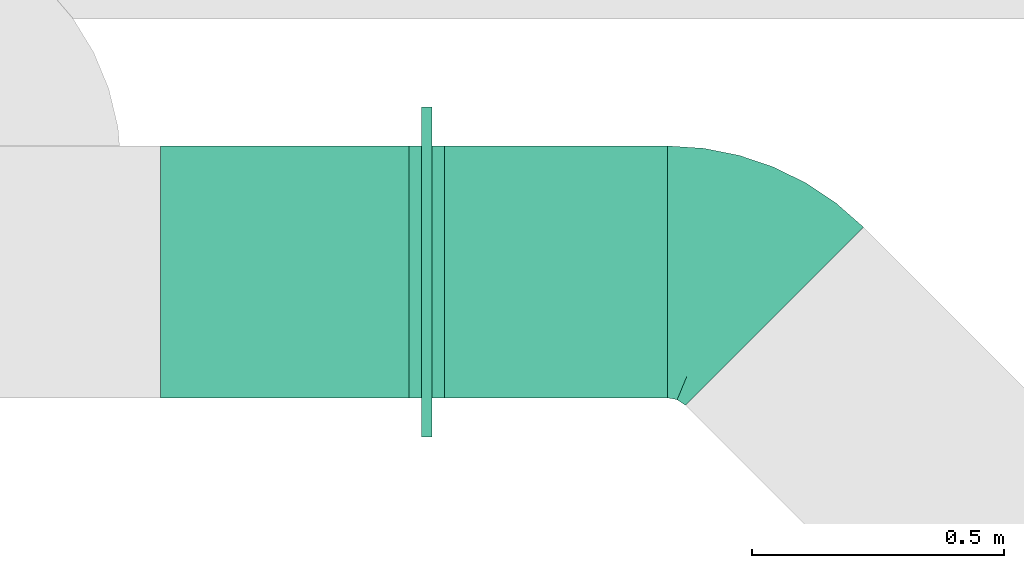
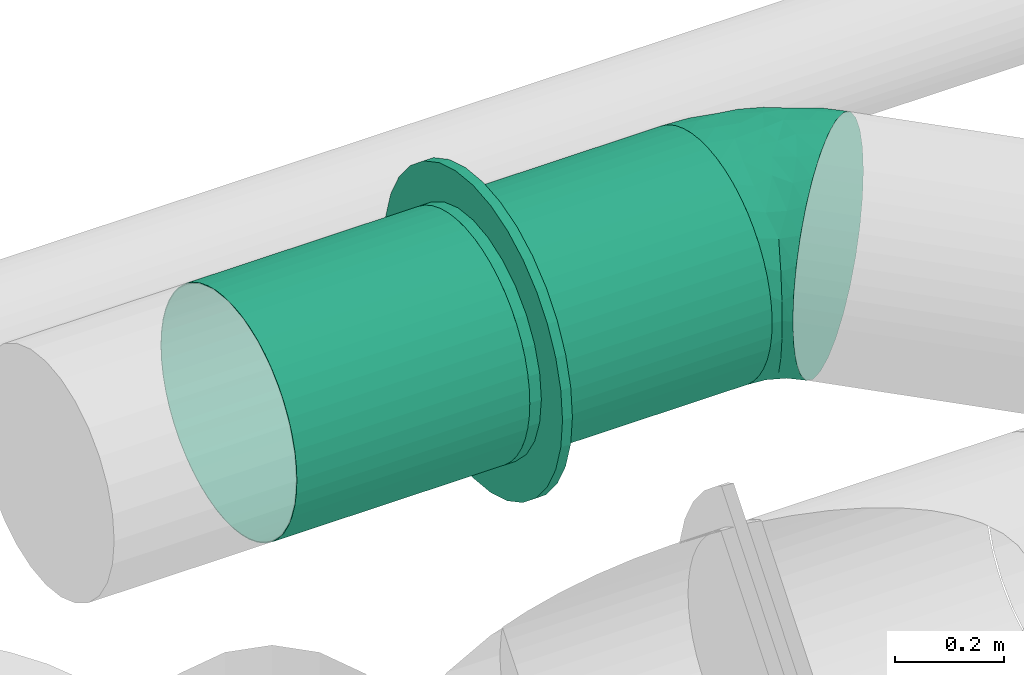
# One storey, part 14 of 31: 2 flow segments, 1 flow controller, 1 flow fitting.
"""IFC2X3 building model written with IfcOpenShell, lengths in millimetres."""

from ifc_helpers import new_model, entity, si_unit, converted_unit, derived_unit, direction, frame, origin_with_axes, origin_2d_with_axis, place, context, subcontext, project, spatial, hollow_circle, extrude, open_shell, surface_model, source, transform, mapped, type_object, element, save


model = new_model("IFC2X3")

# Units and contexts
model_context = context("Model", 3, precision=0.01, world=frame((0.0, 4.29681676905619e-09, 0.0)), true_north=direction((4.01073788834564e-13, 1.0)))
plan_context = context("Plan", 3, precision=0.01, world=frame((0.0, 4.29681676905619e-09, 0.0)), true_north=direction((4.01073788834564e-13, 1.0)))
body_context = subcontext(model_context, "Body", "Model", "MODEL_VIEW")
ifc_project = project(units=[converted_unit("PLANEANGLEUNIT", "DEGREE", entity("IfcPositiveLengthMeasure", 0.0174532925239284), si_unit("PLANEANGLEUNIT", "RADIAN"), dimensions=[0, 0, 0, 0, 0, 0, 0]), si_unit("AREAUNIT", "SQUARE_METRE"), si_unit("LENGTHUNIT", "METRE", prefix="MILLI"), si_unit("MASSUNIT", "GRAM", prefix="KILO"), si_unit("POWERUNIT", "WATT"), si_unit("PRESSUREUNIT", "PASCAL", prefix="KILO"), si_unit("FORCEUNIT", "NEWTON", prefix="KILO"), si_unit("ELECTRICVOLTAGEUNIT", "VOLT"), si_unit("ELECTRICCURRENTUNIT", "AMPERE"), si_unit("THERMODYNAMICTEMPERATUREUNIT", "DEGREE_CELSIUS"), si_unit("TIMEUNIT", "SECOND"), si_unit("VOLUMEUNIT", "CUBIC_METRE"), derived_unit("LINEARVELOCITYUNIT", [(si_unit("LENGTHUNIT", "METRE"), 1), (si_unit("TIMEUNIT", "SECOND"), -1)]), derived_unit("VOLUMETRICFLOWRATEUNIT", [(si_unit("VOLUMEUNIT", "CUBIC_METRE"), 1), (si_unit("TIMEUNIT", "SECOND"), -1)]), derived_unit("THERMALTRANSMITTANCEUNIT", [(si_unit("POWERUNIT", "WATT"), 1), (si_unit("THERMODYNAMICTEMPERATUREUNIT", "KELVIN"), -1), (si_unit("AREAUNIT", "SQUARE_METRE"), -1)]), derived_unit("SOUNDPRESSUREUNIT", [(si_unit("PRESSUREUNIT", "PASCAL"), 1)])], contexts=[model_context, plan_context])

# Site, building, storey
site_placement = place(None, frame((0.0, -4.29681676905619e-09, 0.0), z_axis=(0.0, 0.0, 1.0), x_axis=(1.0, 0.0, 0.0)))
site = spatial("IfcSite", under=ifc_project, at=site_placement, CompositionType="ELEMENT")
building_placement = place(site_placement, frame((0.0, 4.29681676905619e-09, 0.0), z_axis=(0.0, 0.0, 1.0), x_axis=(1.0, 0.0, 0.0)))
building = spatial("IfcBuilding", under=site, at=building_placement, Name="mc-building", CompositionType="ELEMENT")
storey_placement = place(building_placement, frame((0.0, 0.0, 210900.0), z_axis=(0.0, 0.0, 1.0), x_axis=(1.0, 0.0, 0.0)))
storey = spatial("IfcBuildingStorey", under=building, at=storey_placement, Name="Nivå F", CompositionType="ELEMENT", Elevation=210900.0)

# Flow controller
damper_type = type_object("IfcDamperType", Name="IRIS-050", PredefinedType="BALANCINGDAMPER")
shared_shape_1 = source(origin_with_axes(), body_context, "Body", "SurfaceModel", [
    surface_model("IfcShellBasedSurfaceModel", [(35.0, 225.24221, -108.47093), (35.0, 55.63023, -243.73198), (35.0, 108.47093, -225.24221), (35.0, 155.87244, -195.45787), (35.0, 243.73198, -55.63023), (35.0, 250.0, 0.0), (35.0, -225.24221, -108.47093), (35.0, 195.45787, -155.87244), (35.0, -55.63023, -243.73198), (35.0, -155.87244, -195.45787), (35.0, -108.47093, -225.24221), (35.0, 0.0, -250.0), (35.0, -195.45787, -155.87244), (35.0, -243.73198, -55.63023), (35.0, 243.73198, 55.63023), (35.0, 225.24221, 108.47093), (35.0, 195.45787, 155.87244), (35.0, 155.87244, 195.45787), (35.0, 108.47093, 225.24221), (35.0, -195.45787, 155.87244), (35.0, 55.63023, 243.73198), (35.0, 0.0, 250.0), (35.0, -55.63023, 243.73198), (35.0, -250.0, 0.0), (35.0, -225.24221, 108.47093), (35.0, -243.73198, 55.63023), (35.0, -108.47093, 225.24221), (35.0, -155.87244, 195.45787), (10.5, 0.0, 250.0), (10.5, 55.63023, 243.73198), (10.5, 108.47093, 225.24221), (10.5, -108.47093, 225.24221), (10.5, 225.24221, 108.47093), (10.5, 243.73198, 55.63023), (10.5, 195.45787, 155.87244), (10.5, 155.87244, 195.45787), (10.5, -225.24221, 108.47093), (10.5, -250.0, 0.0), (10.5, -195.45787, 155.87244), (10.5, -155.87244, 195.45787), (10.5, -55.63023, 243.73198), (10.5, -243.73198, 55.63023), (10.5, 250.0, 0.0), (10.5, 243.73198, -55.63023), (10.5, 225.24221, -108.47093), (10.5, -225.24221, -108.47093), (10.5, 155.87244, -195.45787), (10.5, 108.47093, -225.24221), (10.5, 55.63023, -243.73198), (10.5, 195.45787, -155.87244), (10.5, 0.0, -250.0), (10.5, -155.87244, -195.45787), (10.5, -195.45787, -155.87244), (10.5, -243.73198, -55.63023), (10.5, -55.63023, -243.73198), (10.5, -108.47093, -225.24221), (10.5, 63.89208, -321.20717), (10.5, 181.94925, -272.30629), (10.5, 272.30629, -181.94925), (10.5, 125.32882, -302.57054), (10.5, 231.57747, -231.57747), (10.5, 302.57054, -125.32882), (10.5, 321.20717, -63.89208), (10.5, 231.57747, 231.57747), (10.5, -181.94925, -272.30629), (10.5, 0.0, -327.5), (10.5, -63.89208, -321.20717), (10.5, -125.32882, -302.57054), (10.5, -272.30629, -181.94925), (10.5, -231.57747, -231.57747), (10.5, -302.57054, -125.32882), (10.5, -321.20717, 63.89208), (10.5, -327.5, 0.0), (10.5, -321.20717, -63.89208), (10.5, 327.5, 0.0), (10.5, 302.57054, 125.32882), (10.5, 272.30629, 181.94925), (10.5, 125.32882, 302.57054), (10.5, 63.89208, 321.20717), (10.5, 181.94925, 272.30629), (10.5, 0.0, 327.5), (10.5, -272.30629, 181.94925), (10.5, -302.57054, 125.32882), (10.5, -125.32882, 302.57054), (10.5, -231.57747, 231.57747), (10.5, -181.94925, 272.30629), (10.5, -63.89208, 321.20717), (10.5, 321.20717, 63.89208), (-10.5, 63.89208, 321.20717), (-10.5, 125.32882, 302.57054), (-10.5, 321.20717, 63.89208), (-10.5, -63.89208, 321.20717), (-10.5, 0.0, 327.5), (-10.5, 231.57747, 231.57747), (-10.5, 181.94925, 272.30629), (-10.5, 302.57054, 125.32882), (-10.5, 272.30629, 181.94925), (-10.5, -321.20717, 63.89208), (-10.5, -231.57747, 231.57747), (-10.5, -125.32882, 302.57054), (-10.5, -272.30629, 181.94925), (-10.5, -181.94925, 272.30629), (-10.5, -302.57054, 125.32882), (-10.5, -231.57747, -231.57747), (-10.5, -327.5, 0.0), (-10.5, 327.5, 0.0), (-10.5, 321.20717, -63.89208), (-10.5, 302.57054, -125.32882), (-10.5, -181.94925, -272.30629), (-10.5, 181.94925, -272.30629), (-10.5, 272.30629, -181.94925), (-10.5, 63.89208, -321.20717), (-10.5, 125.32882, -302.57054), (-10.5, 231.57747, -231.57747), (-10.5, -272.30629, -181.94925), (-10.5, -302.57054, -125.32882), (-10.5, -321.20717, -63.89208), (-10.5, -63.89208, -321.20717), (-10.5, -125.32882, -302.57054), (-10.5, 0.0, -327.5), (-10.5, 225.24221, -108.47093), (-10.5, 55.63023, -243.73198), (-10.5, 108.47093, -225.24221), (-10.5, 155.87244, -195.45787), (-10.5, 243.73198, -55.63023), (-10.5, 250.0, 0.0), (-10.5, -225.24221, -108.47093), (-10.5, 195.45787, -155.87244), (-10.5, -55.63023, -243.73198), (-10.5, -155.87244, -195.45787), (-10.5, -108.47093, -225.24221), (-10.5, 0.0, -250.0), (-10.5, -195.45787, -155.87244), (-10.5, -243.73198, -55.63023), (-10.5, 243.73198, 55.63023), (-10.5, 225.24221, 108.47093), (-10.5, 195.45787, 155.87244), (-10.5, 155.87244, 195.45787), (-10.5, 108.47093, 225.24221), (-10.5, -195.45787, 155.87244), (-10.5, 55.63023, 243.73198), (-10.5, 0.0, 250.0), (-10.5, -55.63023, 243.73198), (-10.5, -250.0, 0.0), (-10.5, -225.24221, 108.47093), (-10.5, -243.73198, 55.63023), (-10.5, -108.47093, 225.24221), (-10.5, -155.87244, 195.45787), (-35.0, 0.0, 250.0), (-35.0, 55.63023, 243.73198), (-35.0, 108.47093, 225.24221), (-35.0, -108.47093, 225.24221), (-35.0, 225.24221, 108.47093), (-35.0, 243.73198, 55.63023), (-35.0, 195.45787, 155.87244), (-35.0, 155.87244, 195.45787), (-35.0, -225.24221, 108.47093), (-35.0, -250.0, 0.0), (-35.0, -195.45787, 155.87244), (-35.0, -155.87244, 195.45787), (-35.0, -55.63023, 243.73198), (-35.0, -243.73198, 55.63023), (-35.0, 250.0, 0.0), (-35.0, 243.73198, -55.63023), (-35.0, 225.24221, -108.47093), (-35.0, -225.24221, -108.47093), (-35.0, 155.87244, -195.45787), (-35.0, 108.47093, -225.24221), (-35.0, 55.63023, -243.73198), (-35.0, 195.45787, -155.87244), (-35.0, 0.0, -250.0), (-35.0, -155.87244, -195.45787), (-35.0, -195.45787, -155.87244), (-35.0, -243.73198, -55.63023), (-35.0, -55.63023, -243.73198), (-35.0, -108.47093, -225.24221)], [open_shell([[[0, 1, 2]], [[0, 2, 3]], [[4, 5, 0]], [[1, 0, 6]], [[3, 7, 0]], [[6, 0, 5]], [[8, 9, 10]], [[9, 8, 11]], [[12, 9, 6]], [[6, 9, 11]], [[1, 6, 11]], [[5, 13, 6]], [[5, 14, 13]], [[14, 15, 16]], [[14, 16, 17]], [[14, 18, 19]], [[20, 21, 18]], [[18, 14, 17]], [[22, 18, 21]], [[23, 24, 25]], [[13, 24, 23]], [[26, 19, 18]], [[27, 19, 26]], [[24, 14, 19]], [[22, 26, 18]], [[24, 13, 14]], [[28, 29, 30]], [[31, 28, 30]], [[32, 33, 34]], [[35, 34, 33]], [[30, 35, 36]], [[37, 35, 33]], [[31, 38, 39]], [[31, 40, 28]], [[38, 30, 36]], [[37, 41, 36]], [[30, 38, 31]], [[37, 36, 35]], [[33, 42, 37]], [[42, 43, 44]], [[45, 42, 44]], [[46, 47, 44]], [[48, 44, 47]], [[44, 49, 46]], [[50, 44, 48]], [[45, 51, 52]], [[53, 37, 45]], [[50, 54, 51]], [[55, 51, 54]], [[50, 51, 45]], [[44, 50, 45]], [[45, 37, 42]], [[53, 13, 37]], [[45, 6, 53]], [[9, 52, 51]], [[51, 55, 10]], [[45, 52, 12]], [[54, 8, 55]], [[12, 6, 45]], [[6, 13, 53]], [[13, 23, 37]], [[8, 10, 55]], [[9, 51, 10]], [[9, 12, 52]], [[8, 54, 11]], [[54, 50, 11]], [[50, 48, 1]], [[44, 43, 0]], [[7, 49, 44]], [[46, 49, 3]], [[4, 43, 42]], [[2, 47, 3]], [[2, 1, 48]], [[46, 3, 47]], [[2, 48, 47]], [[49, 7, 3]], [[44, 0, 7]], [[4, 0, 43]], [[42, 5, 4]], [[50, 1, 11]], [[33, 14, 42]], [[32, 15, 33]], [[17, 34, 35]], [[35, 30, 18]], [[32, 34, 16]], [[29, 20, 30]], [[16, 15, 32]], [[15, 14, 33]], [[14, 5, 42]], [[20, 18, 30]], [[17, 35, 18]], [[17, 16, 34]], [[20, 29, 21]], [[29, 28, 21]], [[26, 31, 39]], [[36, 41, 24]], [[19, 38, 36]], [[27, 39, 38]], [[37, 25, 41]], [[22, 21, 40]], [[40, 31, 22]], [[22, 31, 26]], [[27, 26, 39]], [[38, 19, 27]], [[36, 24, 19]], [[25, 24, 41]], [[37, 23, 25]], [[40, 21, 28]], [[56, 57, 58]], [[56, 59, 57]], [[57, 60, 58]], [[61, 62, 63]], [[56, 61, 64]], [[56, 58, 61]], [[63, 64, 61]], [[65, 56, 66]], [[64, 67, 66]], [[64, 66, 56]], [[68, 69, 70]], [[71, 69, 64]], [[72, 70, 69]], [[72, 73, 70]], [[63, 62, 74]], [[75, 76, 74]], [[63, 74, 76]], [[64, 63, 71]], [[77, 78, 63]], [[78, 71, 63]], [[63, 79, 77]], [[80, 71, 78]], [[81, 82, 71]], [[81, 71, 83]], [[72, 69, 71]], [[83, 84, 81]], [[85, 84, 83]], [[83, 71, 86]], [[80, 86, 71]], [[75, 74, 87]], [[88, 89, 90]], [[88, 91, 92]], [[93, 89, 94]], [[95, 90, 93]], [[93, 96, 95]], [[90, 89, 93]], [[97, 88, 90]], [[98, 99, 100]], [[98, 101, 99]], [[91, 88, 99]], [[102, 100, 97]], [[97, 100, 99]], [[97, 99, 88]], [[97, 103, 104]], [[97, 90, 105]], [[105, 106, 107]], [[108, 105, 107]], [[109, 107, 110]], [[109, 111, 107]], [[112, 111, 109]], [[109, 110, 113]], [[108, 107, 111]], [[103, 114, 115]], [[104, 103, 115]], [[116, 104, 115]], [[117, 108, 111]], [[118, 108, 117]], [[108, 103, 97]], [[119, 117, 111]], [[105, 108, 97]], [[116, 73, 104]], [[70, 116, 115]], [[115, 114, 68]], [[64, 103, 108]], [[118, 67, 108]], [[114, 103, 69]], [[68, 70, 115]], [[70, 73, 116]], [[73, 72, 104]], [[65, 66, 117]], [[66, 67, 118]], [[64, 69, 103]], [[108, 67, 64]], [[69, 68, 114]], [[118, 117, 66]], [[117, 119, 65]], [[59, 112, 109]], [[56, 111, 112]], [[57, 109, 113]], [[107, 106, 61]], [[58, 110, 107]], [[60, 113, 110]], [[62, 106, 105]], [[65, 111, 56]], [[56, 112, 59]], [[57, 59, 109]], [[113, 60, 57]], [[60, 110, 58]], [[61, 58, 107]], [[62, 61, 106]], [[105, 74, 62]], [[111, 65, 119]], [[90, 87, 105]], [[75, 90, 95]], [[95, 96, 76]], [[79, 93, 94]], [[94, 89, 77]], [[96, 93, 63]], [[89, 88, 78]], [[76, 75, 95]], [[75, 87, 90]], [[87, 74, 105]], [[78, 92, 80]], [[78, 77, 89]], [[79, 63, 93]], [[94, 77, 79]], [[63, 76, 96]], [[88, 92, 78]], [[83, 99, 101]], [[86, 91, 99]], [[85, 101, 98]], [[102, 97, 82]], [[81, 100, 102]], [[84, 98, 100]], [[71, 97, 104]], [[101, 85, 83]], [[83, 86, 99]], [[80, 91, 86]], [[98, 84, 85]], [[100, 81, 84]], [[82, 81, 102]], [[71, 82, 97]], [[104, 72, 71]], [[91, 80, 92]], [[120, 121, 122]], [[120, 122, 123]], [[124, 125, 120]], [[121, 120, 126]], [[123, 127, 120]], [[126, 120, 125]], [[128, 129, 130]], [[129, 128, 131]], [[132, 129, 126]], [[126, 129, 131]], [[121, 126, 131]], [[125, 133, 126]], [[125, 134, 133]], [[134, 135, 136]], [[134, 136, 137]], [[134, 138, 139]], [[140, 141, 138]], [[138, 134, 137]], [[142, 138, 141]], [[143, 144, 145]], [[133, 144, 143]], [[146, 139, 138]], [[147, 139, 146]], [[144, 134, 139]], [[142, 146, 138]], [[144, 133, 134]], [[148, 149, 150]], [[151, 148, 150]], [[152, 153, 154]], [[155, 154, 153]], [[150, 155, 156]], [[157, 155, 153]], [[151, 158, 159]], [[151, 160, 148]], [[158, 150, 156]], [[157, 161, 156]], [[150, 158, 151]], [[157, 156, 155]], [[153, 162, 157]], [[162, 163, 164]], [[165, 162, 164]], [[166, 167, 164]], [[168, 164, 167]], [[164, 169, 166]], [[170, 164, 168]], [[165, 171, 172]], [[173, 157, 165]], [[170, 174, 171]], [[175, 171, 174]], [[170, 171, 165]], [[164, 170, 165]], [[165, 157, 162]], [[173, 133, 157]], [[165, 126, 173]], [[129, 172, 171]], [[171, 175, 130]], [[165, 172, 132]], [[174, 128, 175]], [[132, 126, 165]], [[126, 133, 173]], [[133, 143, 157]], [[128, 130, 175]], [[129, 171, 130]], [[129, 132, 172]], [[128, 174, 131]], [[174, 170, 131]], [[170, 168, 121]], [[164, 163, 120]], [[127, 169, 164]], [[166, 169, 123]], [[124, 163, 162]], [[122, 167, 123]], [[122, 121, 168]], [[166, 123, 167]], [[122, 168, 167]], [[169, 127, 123]], [[164, 120, 127]], [[124, 120, 163]], [[162, 125, 124]], [[170, 121, 131]], [[153, 134, 162]], [[152, 135, 153]], [[137, 154, 155]], [[155, 150, 138]], [[152, 154, 136]], [[149, 140, 150]], [[136, 135, 152]], [[135, 134, 153]], [[134, 125, 162]], [[140, 138, 150]], [[137, 155, 138]], [[137, 136, 154]], [[140, 149, 141]], [[149, 148, 141]], [[146, 151, 159]], [[156, 161, 144]], [[139, 158, 156]], [[147, 159, 158]], [[157, 145, 161]], [[142, 141, 160]], [[160, 151, 142]], [[142, 151, 146]], [[147, 146, 159]], [[158, 139, 147]], [[156, 144, 139]], [[145, 144, 161]], [[157, 143, 145]], [[160, 141, 148]]])]),
])
flow_controller_placement = place(storey_placement, frame((721071.62741, 440215.23198, 3950.0), z_axis=(0.0, 0.0, 1.0), x_axis=(-1.0, 0.0, 0.0)))
element("IfcFlowController", 1, at=flow_controller_placement, inside=storey, type_object=damper_type, Name="IRIS-050", context=body_context, shape_type="MappedRepresentation", body=[
    mapped(shared_shape_1, transform((0.0, 0.0, 0.0), scale=1.0)),
])

# Flow fitting
duct_fitting_type = type_object("IfcDuctFittingType", Name="magicirc_elbow_short_001", PredefinedType="BEND")
shared_shape_2 = source(origin_with_axes(), body_context, "Body", "SurfaceModel", [
    surface_model("IfcShellBasedSurfaceModel", [(-124.26407, 0.0, -250.0), (-124.26407, -108.47093, -225.24221), (-124.26407, 55.63023, -243.73198), (-124.26407, 108.47093, -225.24221), (-124.26407, 155.87244, -195.45787), (-124.26407, 195.45787, -155.87244), (-124.26407, 243.73198, -55.63023), (-124.26407, 225.24221, -108.47093), (-124.26407, -250.0, 0.0), (-124.26407, -243.73198, 55.63023), (-124.26407, -155.87244, -195.45787), (-124.26407, -55.63023, -243.73198), (-124.26407, -225.24221, -108.47093), (-124.26407, -195.45787, -155.87244), (-124.26407, -243.73198, -55.63023), (-124.26407, 225.24221, 108.47093), (-124.26407, 243.73198, 55.63023), (-124.26407, 250.0, 0.0), (-124.26407, 195.45787, 155.87244), (-124.26407, 155.87244, 195.45787), (-124.26407, -195.45787, 155.87244), (-124.26407, 108.47093, 225.24221), (-124.26407, 55.63023, 243.73198), (-124.26407, 0.0, 250.0), (-124.26407, -225.24221, 108.47093), (-124.26407, -108.47093, 225.24221), (-124.26407, -55.63023, 243.73198), (-124.26407, -155.87244, 195.45787), (48.53145, 127.20448, -243.73198), (127.20448, 48.53145, -243.73198), (87.86797, 87.86797, -250.0), (-50.34162, 226.07755, -155.87244), (11.16743, 164.5685, -225.24221), (-71.40233, 247.13826, -108.47093), (-84.47657, 260.2125, -55.63023), (-22.3505, 198.08644, -195.45787), (-50.34162, 226.07755, 155.87244), (247.13826, -71.40233, -108.47093), (198.08644, -22.3505, -195.45787), (164.5685, 11.16743, -225.24221), (226.07755, -50.34162, -155.87244), (264.64466, -88.90873, 0.0), (260.2125, -84.47657, -55.63023), (-22.3505, 198.08644, 195.45787), (-71.40233, 247.13826, 108.47093), (-84.47657, 260.2125, 55.63023), (11.16743, 164.5685, 225.24221), (48.53145, 127.20448, 243.73198), (87.86797, 87.86797, 250.0), (247.13826, -71.40233, 108.47093), (164.5685, 11.16743, 225.24221), (226.07755, -50.34162, 155.87244), (260.2125, -84.47657, 55.63023), (127.20448, 48.53145, 243.73198), (198.08644, -22.3505, 195.45787), (-88.90873, 264.64466, 0.0), (-90.45276, 124.02841, 218.87221), (-91.29459, 169.55488, 187.41752), (-98.68552, -248.32349, 0.0), (-69.42755, -238.38074, 65.87002), (153.34237, -48.71188, 203.14038), (-52.47466, -245.29468, 0.0), (-76.6666, -216.92271, 120.37881), (-22.89006, -216.92012, 105.24681), (217.65332, -119.46794, 65.87002), (180.64533, -156.32916, 0.0), (210.55472, -136.34434, 0.0), (-60.85928, -185.74402, 162.63886), (-73.98493, -142.87393, 203.14038), (-83.39213, 71.51366, 240.60628), (-67.30817, 13.9977, 249.85946), (73.43929, -100.41393, 202.53266), (13.85174, -54.30021, 236.76331), (26.85313, -105.62493, 211.77383), (-79.75907, -93.02021, 231.02734), (18.08641, -231.25921, 0.0), (31.47339, -218.76937, 64.10343), (-12.38539, -232.71705, 52.90321), (-50.05253, 120.83747, 226.38), (-55.33839, 184.44843, 187.41754), (8.39934, 109.53494, 240.60626), (118.79401, -188.00815, 48.81791), (86.21182, -208.13373, 0.0), (118.47387, -192.22386, 0.0), (-76.90491, -39.94821, 246.23375), (174.37486, -88.30686, 162.63886), (82.62762, 26.13229, 246.23375), (37.69616, 57.49191, 249.85946), (-97.69053, 235.8458, 96.65448), (-103.71583, 250.39217, 42.8242), (-105.12989, 253.80602, 0.0), (-23.74157, 151.66109, 218.87221), (-31.90323, -27.98993, 246.65716), (-39.57952, 42.84314, 248.28201), (-86.07174, 207.79558, 149.73476), (36.6163, -190.48641, 125.53417), (57.55935, -141.01975, 176.52244), (-6.93499, -157.46464, 181.17025), (168.1542, -159.36852, 51.94573), (169.57139, -137.19997, 105.24681), (207.59899, -99.17604, 120.37881), (42.35083, 2.7671, 246.65716), (115.55917, -106.89858, 181.12833), (245.37243, -105.81003, 0.0), (-17.19413, -238.27693, 0.0), (-6.59652, 63.81406, 247.37605), (-12.71298, -191.00061, 145.19814), (121.99205, -9.63542, 230.99042), (137.83324, -132.71637, 141.78754), (105.44893, -165.89734, 119.75665), (137.26371, -165.70422, 87.69769), (-27.37301, -98.77366, 224.31491), (68.664, -168.11276, 141.19415), (-4.4639, 10.77677, 249.65902), (88.81264, -50.91073, 224.2359), (-38.98412, 82.5717, 241.00831), (150.73593, -176.31397, 0.0), (75.56208, -197.19449, 82.92058), (67.46947, -211.94417, 40.66553), (52.14911, -219.69647, 0.0), (-83.39213, 71.51366, -240.60628), (-67.30817, 13.9977, -249.85946), (174.37486, -88.30686, -162.63886), (-76.90491, -39.94821, -246.23375), (-12.71298, -191.00061, -145.19814), (-60.85928, -185.74402, -162.63886), (-6.93499, -157.46464, -181.17025), (-22.89006, -216.92012, -105.24681), (-97.69053, 235.8458, -96.65448), (-86.07174, 207.79558, -149.73476), (-73.98493, -142.87393, -203.14038), (153.34237, -48.71188, -203.14038), (115.55917, -106.89858, -181.12833), (88.81264, -50.91073, -224.2359), (-31.90323, -27.98993, -246.65716), (-4.4639, 10.77677, -249.65902), (28.42363, -48.05229, -236.8304), (-91.29459, 169.55488, -187.41752), (-103.71583, 250.39217, -42.8242), (-55.33839, 184.44843, -187.41754), (-40.45894, 49.78777, -247.37605), (-90.45276, 124.02841, -218.87221), (-69.42755, -238.38074, -65.87002), (-76.6666, -216.92271, -120.37881), (-50.05253, 120.83747, -226.38), (207.59899, -99.17604, -120.37881), (217.65332, -119.46794, -65.87002), (169.57139, -137.19997, -105.24681), (37.69616, 57.49191, -249.85946), (82.62762, 26.13229, -246.23375), (42.35083, 2.7671, -246.65716), (-20.90065, -234.14123, -54.21618), (31.47339, -218.76937, -64.10343), (-23.74157, 151.66109, -218.87221), (36.6163, -190.48641, -125.53417), (143.87468, -126.12906, -145.25502), (-79.75907, -93.02021, -231.02734), (-27.37301, -98.77366, -224.31491), (8.39934, 109.53494, -240.60626), (118.79401, -188.00815, -48.81791), (168.1542, -159.36852, -51.94573), (121.99205, -9.63542, -230.99042), (-2.30776, 58.28161, -248.28201), (75.56208, -197.19449, -82.92058), (10.81175, -84.87887, -225.51932), (55.02329, -94.04809, -211.73768), (17.87079, -122.84009, -202.87383), (-30.8211, 85.95292, -241.00831), (57.55935, -141.01975, -176.52244), (68.664, -168.11276, -141.19415), (105.44893, -165.89734, -119.75665), (137.26371, -165.70422, -87.69769), (67.46947, -211.94417, -40.66553)], [open_shell([[[0, 1, 2]], [[3, 2, 4]], [[5, 6, 7]], [[2, 6, 5]], [[5, 4, 2]], [[2, 8, 9]], [[1, 10, 2]], [[0, 11, 1]], [[12, 10, 13]], [[12, 14, 8]], [[12, 2, 10]], [[12, 8, 2]], [[9, 6, 2]], [[15, 16, 17]], [[18, 15, 17]], [[9, 19, 18]], [[20, 21, 19]], [[17, 9, 18]], [[22, 21, 23]], [[24, 20, 9]], [[20, 19, 9]], [[25, 26, 23]], [[25, 20, 27]], [[23, 20, 25]], [[20, 23, 21]], [[6, 9, 17]], [[28, 29, 30]], [[31, 28, 32]], [[33, 34, 31]], [[31, 34, 28]], [[32, 35, 31]], [[36, 37, 28]], [[29, 38, 39]], [[29, 28, 38]], [[40, 38, 37]], [[41, 42, 37]], [[37, 38, 28]], [[37, 43, 41]], [[44, 28, 34]], [[34, 45, 44]], [[28, 44, 36]], [[43, 46, 41]], [[41, 46, 47]], [[36, 43, 37]], [[47, 48, 41]], [[49, 50, 51]], [[52, 41, 49]], [[48, 53, 50]], [[54, 51, 50]], [[50, 49, 48]], [[48, 49, 41]], [[45, 34, 55]], [[56, 57, 19]], [[58, 59, 9]], [[60, 54, 50]], [[9, 59, 24]], [[61, 59, 58]], [[62, 59, 63]], [[20, 24, 62]], [[64, 65, 66]], [[67, 20, 62]], [[27, 67, 68]], [[69, 22, 70]], [[71, 72, 73]], [[26, 25, 74]], [[75, 76, 77]], [[78, 79, 57]], [[47, 46, 80]], [[81, 82, 83]], [[23, 70, 22]], [[23, 84, 70]], [[21, 56, 19]], [[69, 21, 22]], [[85, 51, 54]], [[86, 48, 87]], [[16, 15, 88]], [[89, 17, 16]], [[90, 17, 89]], [[78, 91, 79]], [[70, 92, 93]], [[15, 18, 94]], [[18, 19, 57]], [[57, 94, 18]], [[63, 76, 95]], [[96, 97, 95]], [[91, 80, 46]], [[23, 26, 84]], [[27, 68, 25]], [[85, 54, 60]], [[98, 64, 99]], [[88, 89, 16]], [[86, 53, 48]], [[94, 57, 79]], [[64, 52, 49]], [[100, 85, 99]], [[49, 51, 100]], [[87, 101, 86]], [[70, 84, 92]], [[85, 60, 102]], [[64, 103, 52]], [[61, 104, 77]], [[87, 80, 105]], [[36, 44, 94]], [[94, 44, 88]], [[100, 64, 49]], [[88, 45, 89]], [[106, 97, 67]], [[90, 89, 55]], [[50, 53, 107]], [[47, 87, 48]], [[36, 94, 79]], [[36, 79, 43]], [[108, 109, 110]], [[68, 97, 111]], [[112, 96, 95]], [[43, 91, 46]], [[87, 47, 80]], [[101, 113, 72]], [[101, 87, 113]], [[20, 67, 27]], [[107, 86, 114]], [[87, 105, 113]], [[74, 84, 26]], [[111, 72, 92]], [[93, 113, 105]], [[69, 115, 56]], [[97, 68, 67]], [[74, 68, 111]], [[106, 67, 63]], [[97, 96, 73]], [[64, 98, 65]], [[98, 81, 116]], [[95, 76, 117]], [[108, 85, 102]], [[107, 60, 50]], [[73, 96, 71]], [[114, 102, 60]], [[102, 96, 112]], [[94, 88, 15]], [[44, 45, 88]], [[59, 62, 24]], [[67, 62, 63]], [[85, 100, 51]], [[64, 100, 99]], [[79, 91, 43]], [[80, 91, 78]], [[69, 56, 21]], [[57, 56, 78]], [[86, 107, 53]], [[60, 107, 114]], [[68, 74, 25]], [[84, 74, 111]], [[78, 115, 80]], [[115, 69, 93]], [[115, 93, 105]], [[69, 70, 93]], [[92, 113, 93]], [[114, 86, 101]], [[73, 72, 111]], [[114, 101, 72]], [[111, 92, 84]], [[72, 113, 92]], [[118, 119, 82]], [[81, 117, 118]], [[80, 115, 105]], [[115, 78, 56]], [[77, 76, 63]], [[77, 59, 61]], [[116, 65, 98]], [[81, 110, 109]], [[110, 98, 99]], [[109, 112, 117]], [[119, 118, 76]], [[81, 109, 117]], [[97, 73, 111]], [[96, 102, 71]], [[102, 114, 71]], [[72, 71, 114]], [[9, 8, 58]], [[103, 64, 66]], [[103, 41, 52]], [[55, 89, 45]], [[63, 95, 106]], [[95, 97, 106]], [[117, 112, 95]], [[102, 112, 109]], [[85, 108, 99]], [[102, 109, 108]], [[76, 75, 119]], [[81, 118, 82]], [[76, 118, 117]], [[59, 77, 63]], [[75, 77, 104]], [[98, 110, 81]], [[116, 81, 83]], [[108, 110, 99]], [[120, 121, 2]], [[38, 40, 122]], [[11, 0, 123]], [[124, 125, 126]], [[2, 121, 0]], [[125, 124, 127]], [[7, 128, 129]], [[125, 130, 126]], [[131, 132, 133]], [[134, 135, 136]], [[137, 4, 5]], [[129, 137, 5]], [[138, 128, 6]], [[31, 35, 139]], [[121, 120, 140]], [[4, 141, 3]], [[12, 142, 14]], [[143, 142, 12]], [[142, 58, 14]], [[144, 137, 139]], [[12, 13, 143]], [[145, 146, 147]], [[10, 130, 125]], [[148, 149, 150]], [[151, 61, 142]], [[42, 41, 103]], [[75, 151, 152]], [[153, 139, 35]], [[127, 154, 152]], [[143, 125, 127]], [[30, 29, 149]], [[155, 132, 122]], [[17, 90, 138]], [[156, 123, 157]], [[55, 34, 138]], [[129, 139, 137]], [[7, 6, 128]], [[130, 10, 1]], [[146, 66, 65]], [[129, 5, 7]], [[35, 32, 153]], [[123, 0, 121]], [[156, 1, 11]], [[30, 149, 148]], [[148, 28, 30]], [[158, 32, 28]], [[116, 159, 160]], [[129, 31, 139]], [[33, 31, 129]], [[161, 29, 39]], [[122, 40, 145]], [[125, 13, 10]], [[148, 150, 162]], [[65, 116, 160]], [[152, 154, 163]], [[131, 38, 122]], [[146, 37, 42]], [[164, 165, 166]], [[146, 103, 66]], [[38, 131, 39]], [[144, 141, 137]], [[103, 146, 42]], [[121, 134, 123]], [[37, 145, 40]], [[158, 28, 148]], [[2, 3, 120]], [[121, 140, 135]], [[6, 17, 138]], [[134, 121, 135]], [[141, 120, 3]], [[161, 149, 29]], [[133, 136, 150]], [[162, 135, 140]], [[158, 167, 153]], [[156, 130, 1]], [[165, 168, 166]], [[157, 126, 130]], [[126, 168, 154]], [[169, 154, 168]], [[104, 151, 75]], [[169, 132, 170]], [[159, 171, 160]], [[132, 131, 122]], [[161, 131, 133]], [[122, 147, 155]], [[132, 168, 165]], [[34, 33, 128]], [[129, 128, 33]], [[125, 143, 13]], [[142, 143, 127]], [[146, 145, 37]], [[122, 145, 147]], [[137, 141, 4]], [[120, 141, 144]], [[158, 153, 32]], [[139, 153, 144]], [[123, 156, 11]], [[130, 156, 157]], [[131, 161, 39]], [[149, 161, 133]], [[144, 167, 120]], [[167, 158, 162]], [[167, 162, 140]], [[158, 148, 162]], [[150, 135, 162]], [[157, 123, 134]], [[165, 136, 133]], [[134, 136, 164]], [[133, 150, 149]], [[136, 135, 150]], [[154, 169, 163]], [[172, 152, 163]], [[120, 167, 140]], [[167, 144, 153]], [[127, 151, 142]], [[159, 116, 83]], [[65, 160, 146]], [[146, 160, 147]], [[152, 172, 119]], [[171, 159, 170]], [[132, 165, 133]], [[168, 126, 166]], [[126, 157, 166]], [[164, 166, 157]], [[170, 159, 163]], [[172, 159, 82]], [[134, 164, 157]], [[165, 164, 136]], [[58, 142, 61]], [[58, 8, 14]], [[55, 138, 90]], [[128, 138, 34]], [[126, 154, 124]], [[154, 127, 124]], [[132, 169, 168]], [[163, 169, 170]], [[171, 155, 147]], [[170, 132, 155]], [[119, 172, 82]], [[119, 75, 152]], [[159, 172, 163]], [[152, 151, 127]], [[61, 151, 104]], [[155, 171, 170]], [[82, 159, 83]], [[160, 171, 147]]])]),
])
flow_fitting_placement = place(storey_placement, frame((721674.05436, 440215.23198, 3950.0), z_axis=(0.0, 0.0, 1.0), x_axis=(-0.707106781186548, 0.707106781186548, 0.0)))
element("IfcFlowFitting", 2, at=flow_fitting_placement, inside=storey, type_object=duct_fitting_type, Name="magicirc_elbow_short_001", context=body_context, shape_type="MappedRepresentation", body=[
    mapped(shared_shape_2, transform((0.0, 0.0, 0.0), scale=1.0)),
])

# Flow segments
duct_segment_type = type_object("IfcDuctSegmentType", Name="KK001T - Spiro kanaler, Forsinket stål", PredefinedType="RIGIDSEGMENT")
shared_shape_3 = source(origin_with_axes(), body_context, "Body", "SweptSolid", [
    extrude(hollow_circle(Radius=250.0, WallThickness=2.0, at=origin_2d_with_axis()), frame((0.0, 0.0, 0.0), z_axis=(1.0, 0.0, 0.0), x_axis=(0.0, 1.0, 0.0)), (0.0, 0.0, 1.0), 493.2),
])
flow_segment_1_placement = place(storey_placement, frame((721036.62741, 440215.23198, 3950.0), z_axis=(0.0, 0.0, 1.0), x_axis=(-1.0, 0.0, 0.0)))
element("IfcFlowSegment", 3, at=flow_segment_1_placement, inside=storey, type_object=duct_segment_type, Name="KK001T - Spiro kanaler, Forsinket stål", context=body_context, shape_type="MappedRepresentation", body=[
    mapped(shared_shape_3, transform((0.0, 0.0, 0.0), scale=1.0)),
])
shared_shape_4 = source(origin_with_axes(), body_context, "Body", "SweptSolid", [
    extrude(hollow_circle(Radius=250.0, WallThickness=2.0, at=origin_2d_with_axis()), frame((0.0, 0.0, 0.0), z_axis=(1.0, 0.0, 0.0), x_axis=(0.0, 1.0, 0.0)), (0.0, 0.0, 1.0), 443.2),
])
flow_segment_2_placement = place(storey_placement, frame((721106.62741, 440215.23198, 3950.0), z_axis=(0.0, 0.0, 1.0), x_axis=(1.0, 0.0, 0.0)))
element("IfcFlowSegment", 4, at=flow_segment_2_placement, inside=storey, type_object=duct_segment_type, Name="KK001T - Spiro kanaler, Forsinket stål", context=body_context, shape_type="MappedRepresentation", body=[
    mapped(shared_shape_4, transform((0.0, 0.0, 0.0), scale=1.0)),
])

save(model, "model.ifc")
